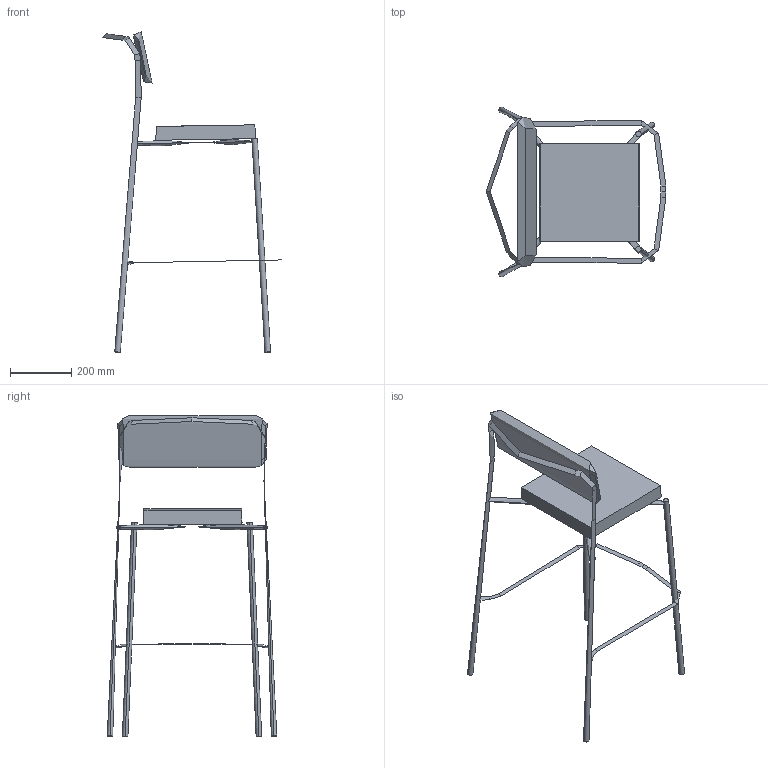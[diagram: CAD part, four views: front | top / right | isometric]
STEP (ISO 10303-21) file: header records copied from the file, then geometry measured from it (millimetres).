
FILE_DESCRIPTION(/* description */ (''),/* implementation_level */ '2;1');
FILE_NAME(/* name */ 'MARGOT_sgabello',/* time_stamp */ '2024-11-06T14:50:10+01:00',/* author */ (''),/* organization */ (''),/* preprocessor_version */ 'ST-DEVELOPER v16.5',/* originating_system */ 'Rhino 7.18',/* authorisation */ '');
FILE_SCHEMA (('CONFIG_CONTROL_DESIGN'));
Length unit declared in the file: millimetre
Products named in the file (1): Document
Bounding box: 586.05 x 552.89 x 1045.94 mm (x, y, z)
Volume: 16281738.5 mm3; surface area: 1108835.8 mm2
Topology: 5 solids, 8 shells, 100 faces, 238 edges, 151 vertices
Faces by surface type: bspline 54, cylinder 36, plane 10
Entity records: 10764 total; most frequent: CARTESIAN_POINT 9268, ORIENTED_EDGE 436, EDGE_CURVE 232, VERTEX_POINT 142, EDGE_LOOP 108, ADVANCED_FACE 100, FACE_OUTER_BOUND 100, B_SPLINE_CURVE_WITH_KNOTS 94
